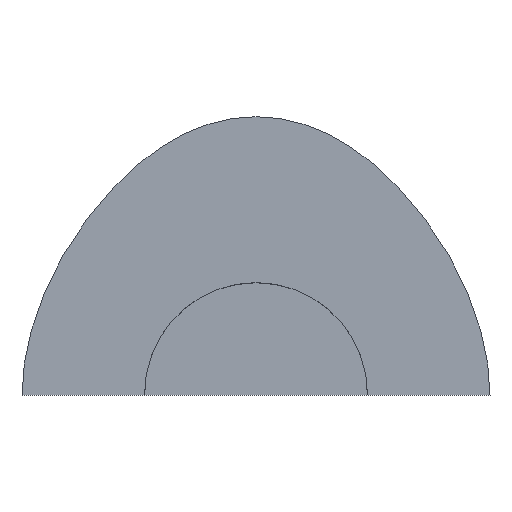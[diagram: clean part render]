
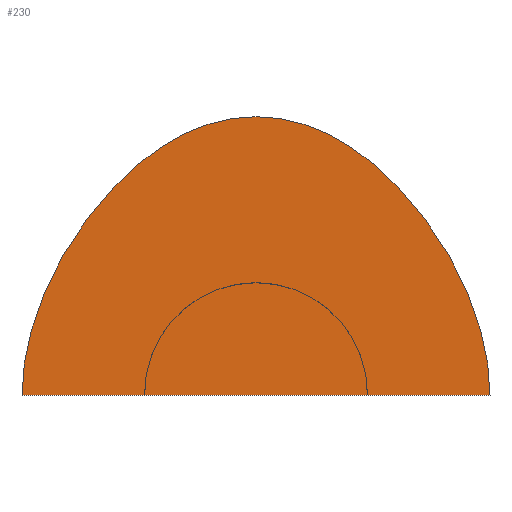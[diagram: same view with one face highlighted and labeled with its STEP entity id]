
A CAD part, top view. The second image highlights one B-rep face of the part: STEP entity #230.
In plain terms, the highlighted planar face has unit normal (0, 0, 1).
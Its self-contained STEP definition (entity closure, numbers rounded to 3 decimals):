
#193=CARTESIAN_POINT('Axis2P3D Location',(0.,50.713,0.)) ;
#198=CARTESIAN_POINT('Line Origine',(0.,0.,0.)) ;
#202=CARTESIAN_POINT('Vertex',(-105.,0.,0.)) ;
#204=CARTESIAN_POINT('Vertex',(105.,0.,0.)) ;
#208=CARTESIAN_POINT('Control Point',(0.,125.,0.)) ;
#209=CARTESIAN_POINT('Control Point',(32.65,125.,0.)) ;
#210=CARTESIAN_POINT('Control Point',(62.981,105.994,0.)) ;
#211=CARTESIAN_POINT('Control Point',(90.994,67.981,0.)) ;
#212=CARTESIAN_POINT('Control Point',(105.,32.65,0.)) ;
#213=CARTESIAN_POINT('Control Point',(105.,0.,0.)) ;
#214=CARTESIAN_POINT('Vertex',(0.,125.,0.)) ;
#218=CARTESIAN_POINT('Control Point',(0.,125.,0.)) ;
#219=CARTESIAN_POINT('Control Point',(-32.65,125.,0.)) ;
#220=CARTESIAN_POINT('Control Point',(-62.981,105.994,0.)) ;
#221=CARTESIAN_POINT('Control Point',(-90.994,67.981,0.)) ;
#222=CARTESIAN_POINT('Control Point',(-105.,32.65,0.)) ;
#223=CARTESIAN_POINT('Control Point',(-105.,0.,0.)) ;
#194=DIRECTION('Axis2P3D Direction',(0.,0.,1.)) ;
#195=DIRECTION('Axis2P3D XDirection',(1.,0.,0.)) ;
#199=DIRECTION('Vector Direction',(1.,0.,0.)) ;
#196=AXIS2_PLACEMENT_3D('Plane Axis2P3D',#193,#194,#195) ;
#226=ORIENTED_EDGE('',*,*,#206,.T.) ;
#227=ORIENTED_EDGE('',*,*,#216,.T.) ;
#228=ORIENTED_EDGE('',*,*,#224,.T.) ;
#200=VECTOR('Line Direction',#199,1.) ;
#230=ADVANCED_FACE('Fill.1',(#229),#197,.T.) ;
#207=B_SPLINE_CURVE_WITH_KNOTS('',5,(#208,#209,#210,#211,#212,#213),.UNSPECIFIED.,.F.,.U.,(6,6),(0.,163.248),.UNSPECIFIED.) ;
#217=B_SPLINE_CURVE_WITH_KNOTS('',5,(#218,#219,#220,#221,#222,#223),.UNSPECIFIED.,.F.,.U.,(6,6),(0.,163.248),.UNSPECIFIED.) ;
#206=EDGE_CURVE('',#203,#205,#201,.T.) ;
#216=EDGE_CURVE('',#205,#215,#207,.F.) ;
#224=EDGE_CURVE('',#215,#203,#217,.T.) ;
#225=EDGE_LOOP('',(#226,#227,#228)) ;
#229=FACE_OUTER_BOUND('',#225,.T.) ;
#201=LINE('Line',#198,#200) ;
#197=PLANE('',#196) ;
#203=VERTEX_POINT('',#202) ;
#205=VERTEX_POINT('',#204) ;
#215=VERTEX_POINT('',#214) ;
